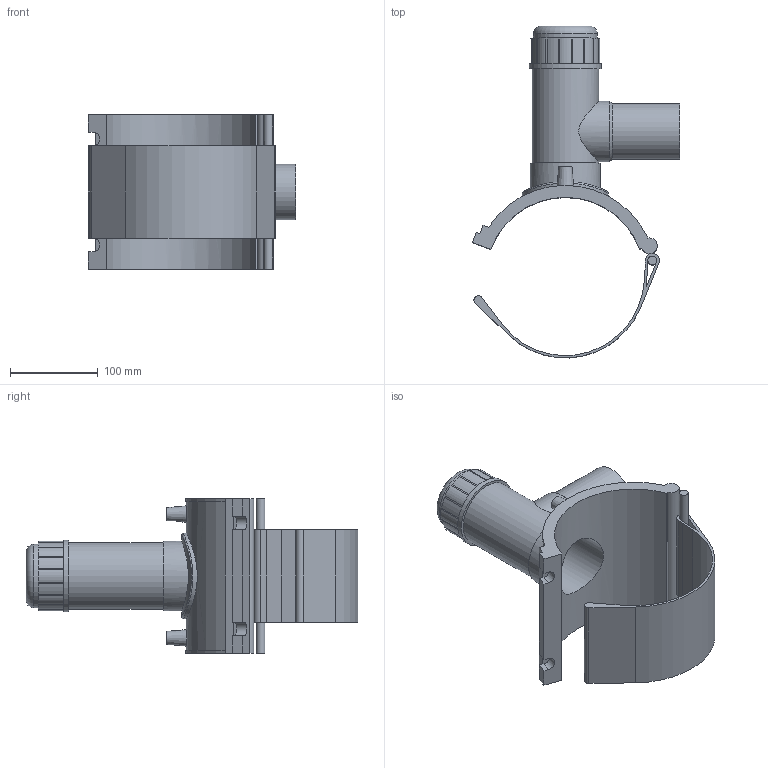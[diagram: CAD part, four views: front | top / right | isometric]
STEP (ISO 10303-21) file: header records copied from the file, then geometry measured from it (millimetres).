
FILE_DESCRIPTION(/* description */ ('PLASSON TAPPING TEE SADDLE 180mm x 63mm'),/* implementation_level */ '2;1');
FILE_NAME(/* name */ 'C:\Dropbox\KIMPROJECTS-Inventor 2019\99-16-3568-Processing\ElectroFusion Fittings\491304\491304180063.stp',/* time_stamp */ '2023-03-23T11:28:49+02:00',/* author */ ('KIM'),/* organization */ (''),/* preprocessor_version */ 'ST-DEVELOPER v17.2',/* originating_system */ 'Autodesk Inventor 2019',/* authorisation */ '');
FILE_SCHEMA (('AUTOMOTIVE_DESIGN { 1 0 10303 214 3 1 1 }'));
Length unit declared in the file: millimetre
Products named in the file (1): 491304180063
Bounding box: 235.72 x 377.58 x 176 mm (x, y, z)
Volume: 1145329 mm3; surface area: 293379 mm2
Topology: 2 solids, 2 shells, 108 faces, 282 edges, 193 vertices
Faces by surface type: plane 59, cylinder 44, cone 3, bspline 1, torus 1
Full cylindrical faces by diameter (mm): 4 x2, 10 x3, 50.4 x1, 63 x1, 69.3 x1, 69.6 x1, 72.45 x1, 75.6 x1, 79.6 x1, 81.9 x1, 97.65 x1
Entity records: 3960 total; most frequent: CARTESIAN_POINT 1153, DIRECTION 586, ORIENTED_EDGE 566, EDGE_CURVE 283, AXIS2_PLACEMENT_3D 212, VERTEX_POINT 195, LINE 162, VECTOR 162
